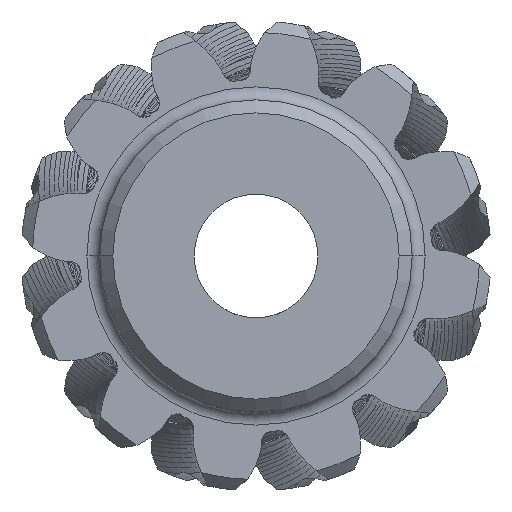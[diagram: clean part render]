
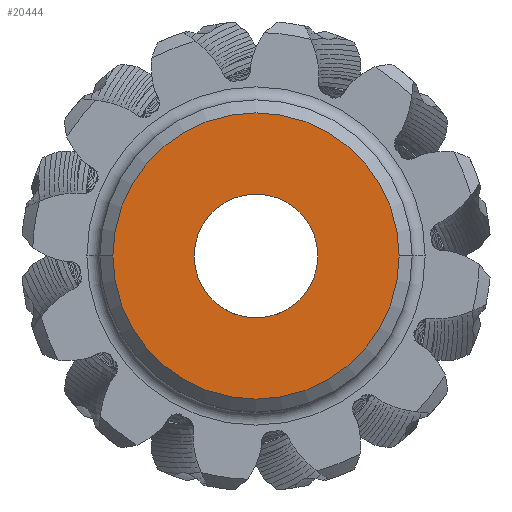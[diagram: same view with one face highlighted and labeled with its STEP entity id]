
A CAD part, front view. The second image highlights one B-rep face of the part: STEP entity #20444.
In plain terms, the highlighted planar face has unit normal (0, -1, 0).
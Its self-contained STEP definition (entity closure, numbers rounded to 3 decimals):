
#16=PLANE('',#21319);
#1438=FACE_BOUND('',#4359,.T.);
#3226=FACE_OUTER_BOUND('',#4358,.T.);
#4358=EDGE_LOOP('',(#18934,#18935));
#4359=EDGE_LOOP('',(#18936,#18937));
#4481=CIRCLE('',#20587,2.375);
#4491=CIRCLE('',#20602,5.5);
#4818=CIRCLE('',#21320,5.5);
#4819=CIRCLE('',#21321,2.375);
#7165=VERTEX_POINT('',#23858);
#7166=VERTEX_POINT('',#23859);
#7179=VERTEX_POINT('',#23955);
#7180=VERTEX_POINT('',#23956);
#9403=EDGE_CURVE('',#7165,#7166,#4481,.T.);
#9423=EDGE_CURVE('',#7179,#7180,#4491,.T.);
#12512=EDGE_CURVE('',#7180,#7179,#4818,.T.);
#12513=EDGE_CURVE('',#7166,#7165,#4819,.T.);
#18934=ORIENTED_EDGE('',*,*,#9423,.F.);
#18935=ORIENTED_EDGE('',*,*,#12512,.F.);
#18936=ORIENTED_EDGE('',*,*,#9403,.F.);
#18937=ORIENTED_EDGE('',*,*,#12513,.F.);
#20444=ADVANCED_FACE('',(#3226,#1438),#16,.F.);
#20587=AXIS2_PLACEMENT_3D('',#23860,#21455,#21456);
#20602=AXIS2_PLACEMENT_3D('',#23957,#21493,#21494);
#21319=AXIS2_PLACEMENT_3D('',#82670,#23217,#23218);
#21320=AXIS2_PLACEMENT_3D('',#82671,#23219,#23220);
#21321=AXIS2_PLACEMENT_3D('',#82672,#23221,#23222);
#21455=DIRECTION('center_axis',(0.,-1.,0.));
#21456=DIRECTION('ref_axis',(1.,0.,0.));
#21493=DIRECTION('center_axis',(0.,1.,0.));
#21494=DIRECTION('ref_axis',(1.,0.,0.));
#23217=DIRECTION('center_axis',(0.,1.,0.));
#23218=DIRECTION('ref_axis',(1.,0.,0.));
#23219=DIRECTION('center_axis',(0.,1.,0.));
#23220=DIRECTION('ref_axis',(1.,0.,0.));
#23221=DIRECTION('center_axis',(0.,-1.,0.));
#23222=DIRECTION('ref_axis',(1.,0.,0.));
#23858=CARTESIAN_POINT('',(75.451,-34.458,-450.522));
#23859=CARTESIAN_POINT('',(70.701,-34.458,-450.522));
#23860=CARTESIAN_POINT('Origin',(73.076,-34.458,-450.522));
#23955=CARTESIAN_POINT('',(78.576,-34.458,-450.522));
#23956=CARTESIAN_POINT('',(67.576,-34.458,-450.522));
#23957=CARTESIAN_POINT('Origin',(73.076,-34.458,-450.522));
#82670=CARTESIAN_POINT('Origin',(73.076,-34.458,-456.022));
#82671=CARTESIAN_POINT('Origin',(73.076,-34.458,-450.522));
#82672=CARTESIAN_POINT('Origin',(73.076,-34.458,-450.522));
